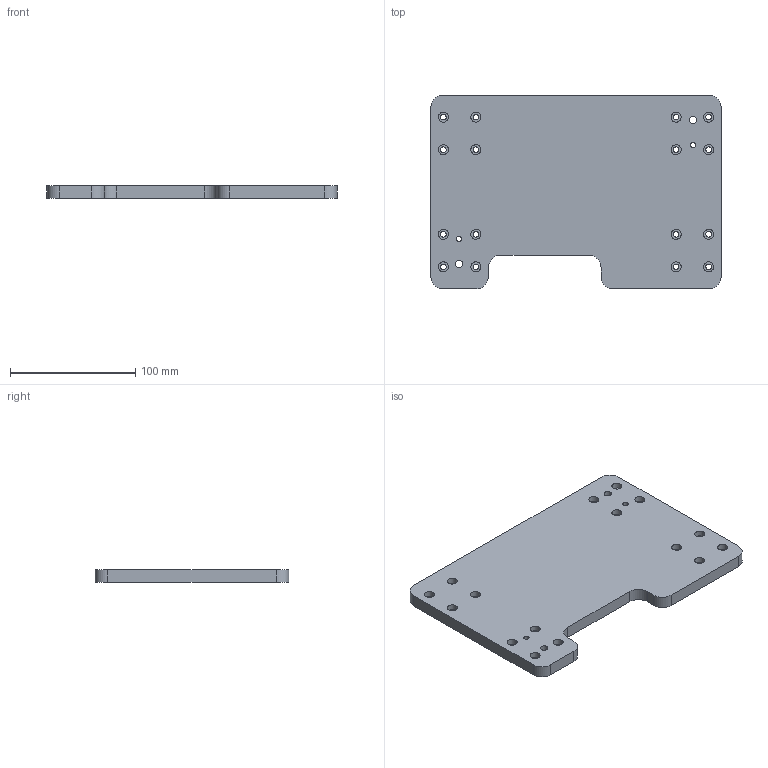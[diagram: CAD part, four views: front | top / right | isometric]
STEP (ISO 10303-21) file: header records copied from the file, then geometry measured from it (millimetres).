
FILE_DESCRIPTION(('CATIA V5 STEP Exchange'),'2;1');
FILE_NAME('D:\姚明阳\1、工装图纸\AGZ131\AGZ131.03_V1.stp','2025-02-06T03:33:22+00:00',('none'),('none'),'CATIA Version 5 Release 20 GA (IN-10)','CATIA V5 STEP AP203','none');
FILE_SCHEMA(('CONFIG_CONTROL_DESIGN'));
Length unit declared in the file: millimetre
Products named in the file (1): AGZ131.03_V1
Bounding box: 232 x 155 x 10 mm (x, y, z)
Volume: 327964.3 mm3; surface area: 78320.6 mm2
Topology: 1 solids, 1 shells, 112 faces, 276 edges, 184 vertices
Faces by surface type: cylinder 84, plane 28
Entity records: 3087 total; most frequent: ORIENTED_EDGE 552, CARTESIAN_POINT 518, DIRECTION 390, EDGE_CURVE 276, AXIS2_PLACEMENT_3D 226, VERTEX_POINT 184, EDGE_LOOP 170, CIRCLE 168
